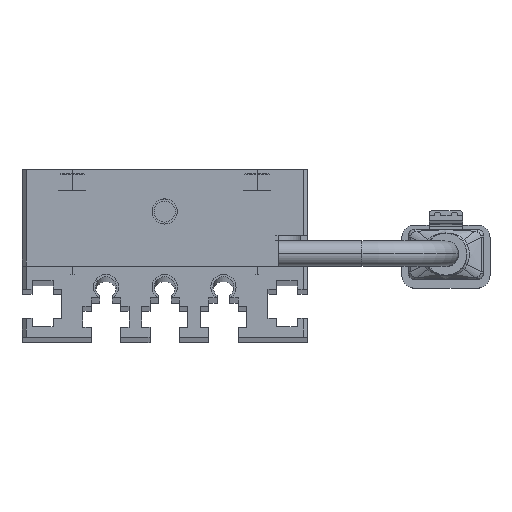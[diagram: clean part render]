
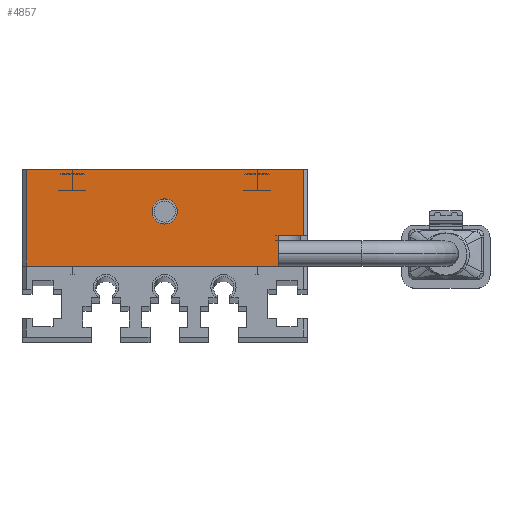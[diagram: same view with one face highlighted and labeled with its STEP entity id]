
A CAD part, top view. The second image highlights one B-rep face of the part: STEP entity #4857.
In plain terms, the highlighted planar face has unit normal (0, 0, 1) as drawn and (0, 0, -1) by its records, which use the part's own axes.
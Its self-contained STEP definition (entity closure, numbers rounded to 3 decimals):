
#46 = DIRECTION ( 'NONE',  ( 0., 1., 0. ) ) ;
#168 = ORIENTED_EDGE ( 'NONE', *, *, #12321, .F. ) ;
#301 = ORIENTED_EDGE ( 'NONE', *, *, #342, .F. ) ;
#342 = EDGE_CURVE ( 'NONE', #2583, #2379, #10959, .T. ) ;
#548 = EDGE_CURVE ( 'NONE', #2685, #2379, #14070, .T. ) ;
#821 = CARTESIAN_POINT ( 'NONE',  ( -13.5, 0., 0. ) ) ;
#1446 = FACE_BOUND ( 'NONE', #11138, .T. ) ;
#1788 = DIRECTION ( 'NONE',  ( -1., 0., 0. ) ) ;
#2379 = VERTEX_POINT ( 'NONE', #5355 ) ;
#2583 = VERTEX_POINT ( 'NONE', #821 ) ;
#2595 = CARTESIAN_POINT ( 'NONE',  ( -16.5, 11.5, 0. ) ) ;
#2685 = VERTEX_POINT ( 'NONE', #3739 ) ;
#2711 = VERTEX_POINT ( 'NONE', #11954 ) ;
#2788 = ORIENTED_EDGE ( 'NONE', *, *, #6819, .T. ) ;
#2813 = ORIENTED_EDGE ( 'NONE', *, *, #548, .T. ) ;
#2987 = DIRECTION ( 'NONE',  ( 1., 0., 0. ) ) ;
#3112 = VERTEX_POINT ( 'NONE', #4070 ) ;
#3139 = CARTESIAN_POINT ( 'NONE',  ( 0., 6.5, 0. ) ) ;
#3251 = DIRECTION ( 'NONE',  ( -1., 0., 0. ) ) ;
#3582 = CARTESIAN_POINT ( 'NONE',  ( 16.5, 0., 0. ) ) ;
#3721 = DIRECTION ( 'NONE',  ( 0., -1., 0. ) ) ;
#3739 = CARTESIAN_POINT ( 'NONE',  ( 16.5, 11.5, 0. ) ) ;
#4070 = CARTESIAN_POINT ( 'NONE',  ( -16.5, 11.5, 0. ) ) ;
#4134 = AXIS2_PLACEMENT_3D ( 'NONE', #7551, #13593, #3251 ) ;
#4259 = CARTESIAN_POINT ( 'NONE',  ( -17., 0., 0. ) ) ;
#4575 = DIRECTION ( 'NONE',  ( 1., 0., 0. ) ) ;
#4850 = ORIENTED_EDGE ( 'NONE', *, *, #5210, .F. ) ;
#4857 = ADVANCED_FACE ( 'NONE', ( #4908, #1446 ), #6032, .T. ) ;
#4908 = FACE_OUTER_BOUND ( 'NONE', #7233, .T. ) ;
#4943 = CARTESIAN_POINT ( 'NONE',  ( -1.5, 6.5, 0. ) ) ;
#5114 = ORIENTED_EDGE ( 'NONE', *, *, #12962, .F. ) ;
#5210 = EDGE_CURVE ( 'NONE', #2711, #14775, #10677, .T. ) ;
#5355 = CARTESIAN_POINT ( 'NONE',  ( 16.5, 0., 0. ) ) ;
#5394 = VERTEX_POINT ( 'NONE', #4943 ) ;
#5516 = CARTESIAN_POINT ( 'NONE',  ( -17., 11.5, 0. ) ) ;
#6032 = PLANE ( 'NONE',  #14511 ) ;
#6327 = EDGE_CURVE ( 'NONE', #10775, #5394, #14510, .T. ) ;
#6355 = CARTESIAN_POINT ( 'NONE',  ( -13.5, 3., 0. ) ) ;
#6651 = LINE ( 'NONE', #6355, #13936 ) ;
#6652 = VECTOR ( 'NONE', #14737, 1000. ) ;
#6735 = ORIENTED_EDGE ( 'NONE', *, *, #6327, .F. ) ;
#6819 = EDGE_CURVE ( 'NONE', #2711, #3112, #13713, .T. ) ;
#7233 = EDGE_LOOP ( 'NONE', ( #7530, #4850, #2788, #5114, #2813, #301 ) ) ;
#7413 = VECTOR ( 'NONE', #2987, 1000. ) ;
#7530 = ORIENTED_EDGE ( 'NONE', *, *, #12739, .F. ) ;
#7550 = CARTESIAN_POINT ( 'NONE',  ( -13.5, 3.6, 0. ) ) ;
#7551 = CARTESIAN_POINT ( 'NONE',  ( 0., 6.5, 0. ) ) ;
#7786 = DIRECTION ( 'NONE',  ( 0., -1., 0. ) ) ;
#8593 = AXIS2_PLACEMENT_3D ( 'NONE', #3139, #13555, #1788 ) ;
#9108 = VECTOR ( 'NONE', #3721, 1000. ) ;
#9161 = VECTOR ( 'NONE', #4575, 1000. ) ;
#9496 = DIRECTION ( 'NONE',  ( 0., 0., -1. ) ) ;
#10635 = CARTESIAN_POINT ( 'NONE',  ( -17., 11.5, 0. ) ) ;
#10677 = LINE ( 'NONE', #13875, #9161 ) ;
#10775 = VERTEX_POINT ( 'NONE', #11891 ) ;
#10959 = LINE ( 'NONE', #4259, #7413 ) ;
#11138 = EDGE_LOOP ( 'NONE', ( #168, #6735 ) ) ;
#11891 = CARTESIAN_POINT ( 'NONE',  ( 1.5, 6.5, 0. ) ) ;
#11954 = CARTESIAN_POINT ( 'NONE',  ( -16.5, 3.6, 0. ) ) ;
#12321 = EDGE_CURVE ( 'NONE', #5394, #10775, #14395, .T. ) ;
#12624 = LINE ( 'NONE', #5516, #6652 ) ;
#12739 = EDGE_CURVE ( 'NONE', #14775, #2583, #6651, .T. ) ;
#12962 = EDGE_CURVE ( 'NONE', #2685, #3112, #12624, .T. ) ;
#13536 = VECTOR ( 'NONE', #46, 1000. ) ;
#13555 = DIRECTION ( 'NONE',  ( 0., 0., -1. ) ) ;
#13593 = DIRECTION ( 'NONE',  ( 0., 0., -1. ) ) ;
#13713 = LINE ( 'NONE', #2595, #13536 ) ;
#13875 = CARTESIAN_POINT ( 'NONE',  ( -16.5, 3.6, 0. ) ) ;
#13936 = VECTOR ( 'NONE', #7786, 1000. ) ;
#14070 = LINE ( 'NONE', #3582, #9108 ) ;
#14123 = DIRECTION ( 'NONE',  ( -1., 0., 0. ) ) ;
#14395 = CIRCLE ( 'NONE', #8593, 1.5 ) ;
#14510 = CIRCLE ( 'NONE', #4134, 1.5 ) ;
#14511 = AXIS2_PLACEMENT_3D ( 'NONE', #10635, #9496, #14123 ) ;
#14737 = DIRECTION ( 'NONE',  ( -1., 0., 0. ) ) ;
#14775 = VERTEX_POINT ( 'NONE', #7550 ) ;
